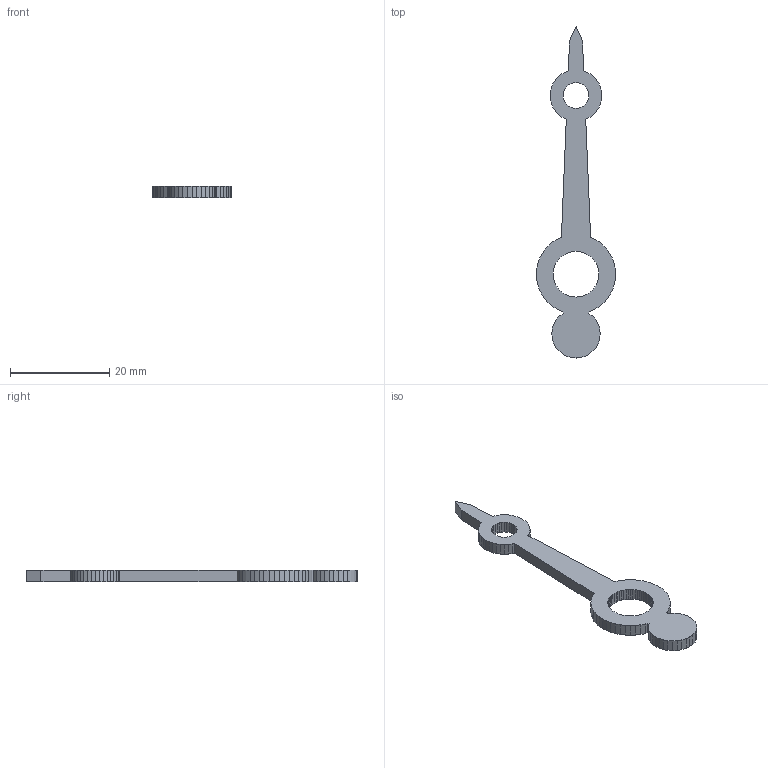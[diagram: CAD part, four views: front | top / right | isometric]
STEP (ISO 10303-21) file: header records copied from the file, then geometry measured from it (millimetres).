
FILE_DESCRIPTION(('Open CASCADE Model'),'2;1');
FILE_NAME('Open CASCADE Shape Model','2026-10-12T22:10:18',('Author'),( 'Open CASCADE'),'Open CASCADE STEP processor 7.9','Open CASCADE 7.9' ,'Unknown');
FILE_SCHEMA(('AUTOMOTIVE_DESIGN { 1 0 10303 214 1 1 1 1 }'));
Length unit declared in the file: millimetre
Products named in the file (1): Open CASCADE STEP translator 7.9 25
Bounding box: 16 x 66.88 x 2.4 mm (x, y, z)
Volume: 967.7 mm3; surface area: 1290 mm2
Topology: 1 solids, 1 shells, 202 faces, 600 edges, 400 vertices
Faces by surface type: plane 202
Entity records: 14442 total; most frequent: CARTESIAN_POINT 2403, DIRECTION 2206, LINE 1800, VECTOR 1800, ORIENTED_EDGE 1200, PCURVE 1200, DEFINITIONAL_REPRESENTATION 1200, EDGE_CURVE 600
